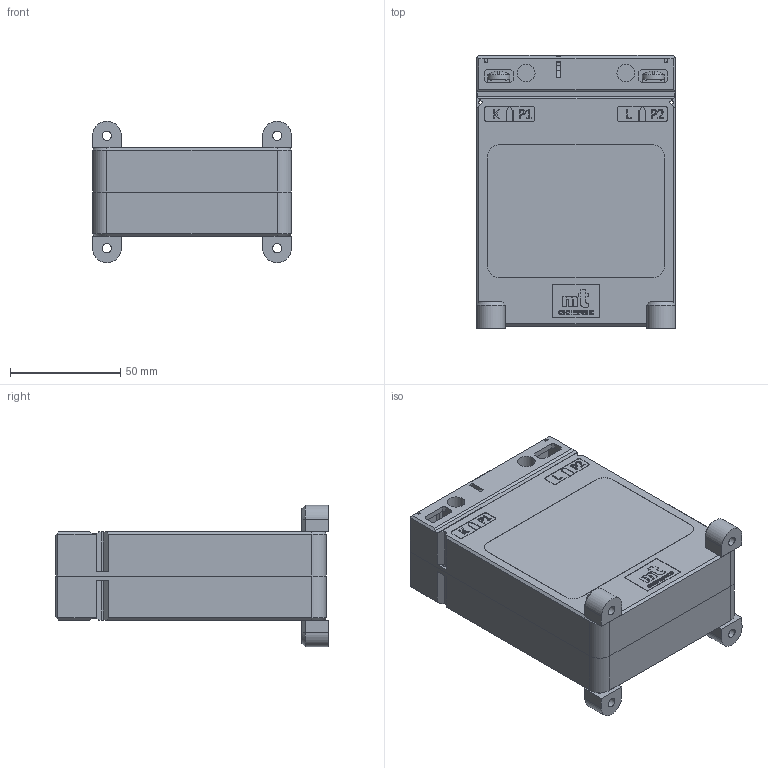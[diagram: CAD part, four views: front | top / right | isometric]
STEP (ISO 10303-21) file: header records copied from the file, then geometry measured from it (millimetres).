
FILE_DESCRIPTION(/* description */ (''),/* implementation_level */ '2;1');
FILE_NAME(/* name */ 'CLB 0.91.step',/* time_stamp */ '2024-10-12T11:11:41+02:00',/* author */ ('peter'),/* organization */ (''),/* preprocessor_version */ 'ST-DEVELOPER v20',/* originating_system */ 'Autodesk Inventor 2025',/* authorisation */ '');
FILE_SCHEMA (('AUTOMOTIVE_DESIGN { 1 0 10303 214 3 1 1 }'));
Length unit declared in the file: millimetre
Products named in the file (10): Current transformer CLB 0.91; Front plastic case CLB 0.91; Back plastic case CLB 0.91; Tape label CLB 0.91; Secondary terminal cover 37B CLB; Plastic mounting foot; Secondary terminal 12 CLB; Plastic barrier; Rivet 20; Screw M5x8
Assembly tree (23 placements, depth 2):
  Current transformer CLB 0.91
    Front plastic case CLB 0.91
    Back plastic case CLB 0.91
    Tape label CLB 0.91
    Secondary terminal cover 37B CLB  x2
    Plastic mounting foot  x4
    Secondary terminal 12 CLB  x4
    Plastic barrier  x2
    Rivet 20  x4
    Screw M5x8  x4
Bounding box: 90 x 123.5 x 64 mm (x, y, z)
Volume: 423988.3 mm3; surface area: 83250 mm2
Topology: 23 solids, 27 shells, 1637 faces, 4410 edges, 2908 vertices
Faces by surface type: plane 1051, bspline 328, cylinder 206, cone 36, torus 8, sphere 8
Full cylindrical faces by diameter (mm): 1.5 x4, 2.4 x4, 2.5 x4, 2.95 x2, 3 x4, 4 x4, 4.1 x4, 4.134 x4, 4.2 x4, 4.5 x4, 5 x8, 8 x16, 9 x4, 10 x4
Entity records: 42048 total; most frequent: CARTESIAN_POINT 11311, ORIENTED_EDGE 6920, DIRECTION 4965, EDGE_CURVE 3460, LINE 2553, VECTOR 2553, VERTEX_POINT 2287, EDGE_LOOP 1393
